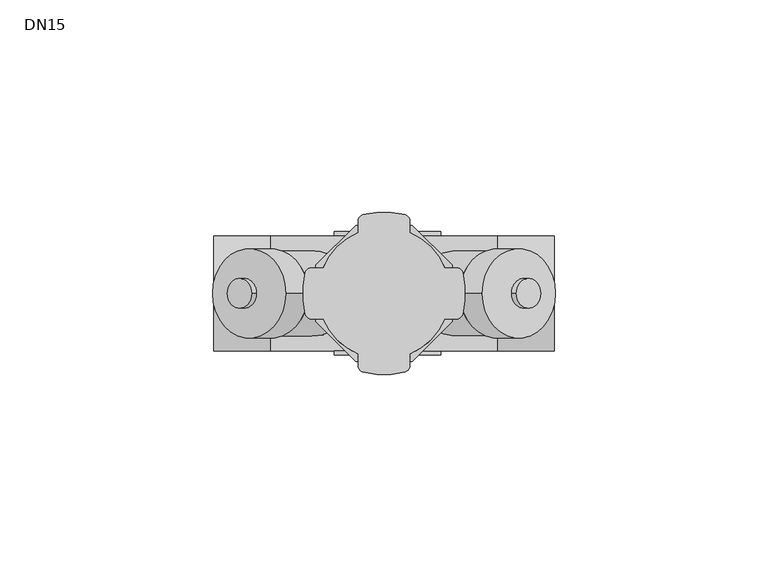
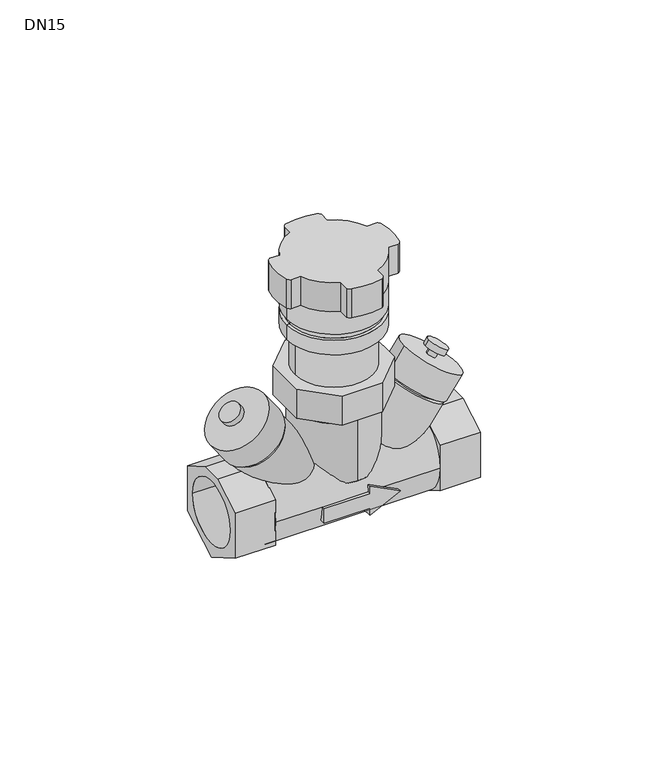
"""IFC4 building model written with IfcOpenShell, lengths in millimetres: valve geometry, 400_56_KOMF_VTZ : DN15."""

from ifc_helpers import new_model, si_unit, point, frame, frame_2d, origin, place, context, project, spatial, polyline, circle_curve, ellipse_curve, trimmed, segment, composite_curve, outline, extrude, source, transform, mapped, element, save
from ifc_brep_helpers import plane_surface, cylinder_surface, revolved_surface, advanced_brep


def dn15_c82197d8(model_context):
    return source(origin(), model_context, "Body", "SolidModel", [
        advanced_brep(
        [(34.1614142, 0.0, 18.2961177), (17.7784319, 0.0, 29.7676054), (19.4167774, 0.0, 28.6204236), (32.5230687, 0.0, 19.4432996), (22.8246716, 0.0, 2.1055715), (6.4416893, 0.0, 13.5770591), (33.0966531, 0.0, 20.2624631), (19.9903618, 0.0, 29.4395871), (40.3067448, 0.0, 26.2008828), (23.1046544, 0.0, 38.2459162), (30.4768006, 0.0, 33.0838838), (32.9345986, 0.0, 31.3629152), (35.1445527, 0.0, 18.8285084), (17.9424623, 0.0, 30.8735418), (34.0817629, 0.0, 33.0012356), (31.623965, 0.0, 34.7222043), (36.867019, 0.0, 33.4924917), (31.132981, 0.0, 37.5075083), (35.719883, 0.0, 31.8542116), (29.985845, 0.0, 35.8692283)],
        [
            (0, 1, circle_curve(frame((25.969923, 0.0, 24.0318616), z_axis=(0.5735764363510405, 0.0, 0.8191520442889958), x_axis=(-0.8191520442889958, 0.0, 0.5735764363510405)), 9.9999642)),
            (1, 0, circle_curve(frame((25.969923, 0.0, 24.0318616), z_axis=(0.5735764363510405, 0.0, 0.8191520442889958), x_axis=(-0.8191520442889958, 0.0, 0.5735764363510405)), 9.9999642)),
            (2, 3, circle_curve(frame((25.969923, 0.0, 24.0318616), z_axis=(-0.5735764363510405, 0.0, -0.8191520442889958), x_axis=(-0.8191520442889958, 0.0, 0.5735764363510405)), 7.9999137)),
            (3, 2, circle_curve(frame((25.969923, 0.0, 24.0318616), z_axis=(-0.5735764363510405, 0.0, -0.8191520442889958), x_axis=(-0.8191520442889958, 0.0, 0.5735764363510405)), 7.9999137)),
            (4, 5, circle_curve(frame((14.6331805, 0.0, 7.8413153), z_axis=(-0.5735764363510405, 0.0, -0.8191520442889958), x_axis=(-0.8191520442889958, 0.0, 0.5735764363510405)), 9.9999642)),
            (5, 4, circle_curve(frame((14.6331805, 0.0, 7.8413153), z_axis=(-0.5735764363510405, 0.0, -0.8191520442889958), x_axis=(-0.8191520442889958, 0.0, 0.5735764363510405)), 9.9999642)),
            (1, 5),
            (4, 0),
            (6, 7, circle_curve(frame((26.5435075, 0.0, 24.8510251), z_axis=(-0.5735764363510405, 0.0, -0.8191520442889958), x_axis=(-0.8191520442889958, 0.0, 0.5735764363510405)), 7.9999137)),
            (7, 2),
            (3, 6),
            (7, 6, circle_curve(frame((26.5435075, 0.0, 24.8510251), z_axis=(-0.5735764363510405, 0.0, -0.8191520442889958), x_axis=(-0.8191520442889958, 0.0, 0.5735764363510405)), 7.9999137)),
            (8, 9, circle_curve(frame((31.7056996, 0.0, 32.2233995), z_axis=(0.5735764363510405, 0.0, 0.8191520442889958), x_axis=(-0.8191520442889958, 0.0, 0.5735764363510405)), 10.4999374)),
            (9, 8, circle_curve(frame((31.7056996, 0.0, 32.2233995), z_axis=(0.5735764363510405, 0.0, 0.8191520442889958), x_axis=(-0.8191520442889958, 0.0, 0.5735764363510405)), 10.4999374)),
            (10, 11, circle_curve(frame((31.7056996, 0.0, 32.2233995), z_axis=(-0.5735764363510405, 0.0, -0.8191520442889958), x_axis=(-0.8191520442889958, 0.0, 0.5735764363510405)), 1.5002086)),
            (11, 10, circle_curve(frame((31.7056996, 0.0, 32.2233995), z_axis=(-0.5735764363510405, 0.0, -0.8191520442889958), x_axis=(-0.8191520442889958, 0.0, 0.5735764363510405)), 1.5002086)),
            (12, 13, circle_curve(frame((26.5435075, 0.0, 24.8510251), z_axis=(-0.5735764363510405, 0.0, -0.8191520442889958), x_axis=(-0.8191520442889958, 0.0, 0.5735764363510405)), 10.4999374)),
            (13, 12, circle_curve(frame((26.5435075, 0.0, 24.8510251), z_axis=(-0.5735764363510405, 0.0, -0.8191520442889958), x_axis=(-0.8191520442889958, 0.0, 0.5735764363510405)), 10.4999374)),
            (9, 13),
            (12, 8),
            (14, 15, circle_curve(frame((32.852864, 0.0, 33.8617199), z_axis=(-0.5735764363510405, 0.0, -0.8191520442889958), x_axis=(-0.8191520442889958, 0.0, 0.5735764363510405)), 1.5002086)),
            (15, 10),
            (11, 14),
            (15, 14, circle_curve(frame((32.852864, 0.0, 33.8617199), z_axis=(-0.5735764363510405, 0.0, -0.8191520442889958), x_axis=(-0.8191520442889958, 0.0, 0.5735764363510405)), 1.5002086)),
            (16, 17, circle_curve(frame((34.0, 0.0, 35.5), z_axis=(0.5735764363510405, 0.0, 0.8191520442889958), x_axis=(-0.8191520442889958, 0.0, 0.5735764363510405)), 3.4999839)),
            (17, 16, circle_curve(frame((34.0, 0.0, 35.5), z_axis=(0.5735764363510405, 0.0, 0.8191520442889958), x_axis=(-0.8191520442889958, 0.0, 0.5735764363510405)), 3.4999839)),
            (18, 19, circle_curve(frame((32.852864, 0.0, 33.8617199), z_axis=(-0.5735764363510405, 0.0, -0.8191520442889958), x_axis=(-0.8191520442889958, 0.0, 0.5735764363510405)), 3.4999839)),
            (19, 18, circle_curve(frame((32.852864, 0.0, 33.8617199), z_axis=(-0.5735764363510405, 0.0, -0.8191520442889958), x_axis=(-0.8191520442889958, 0.0, 0.5735764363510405)), 3.4999839)),
            (17, 19),
            (18, 16),
        ],
        [
            plane_surface(frame((17.7784319, 0.0, 29.7676054), z_axis=(0.5735764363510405, 0.0, 0.8191520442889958), x_axis=(0.0, 1.0, 0.0))),
            plane_surface(frame((6.4416893, 0.0, 13.5770591), z_axis=(-0.5735764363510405, 0.0, -0.8191520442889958), x_axis=(0.0, -1.0, 0.0))),
            cylinder_surface(frame((14.6331805, 0.0, 7.8413153), z_axis=(0.5735764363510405, 0.0, 0.8191520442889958), x_axis=(-0.8191520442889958, 0.0, 0.5735764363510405)), 9.9999642),
            cylinder_surface(frame((17.939734, 0.0, 12.5635631), z_axis=(0.5735764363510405, 0.0, 0.8191520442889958), x_axis=(-0.8191520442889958, 0.0, 0.5735764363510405)), 7.9999137),
            plane_surface(frame((23.1046544, 0.0, 38.2459162), z_axis=(0.5735764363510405, 0.0, 0.8191520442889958), x_axis=(0.0, 1.0, 0.0))),
            plane_surface(frame((17.9424623, 0.0, 30.8735418), z_axis=(-0.5735764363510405, 0.0, -0.8191520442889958), x_axis=(0.0, -1.0, 0.0))),
            cylinder_surface(frame((26.5435075, 0.0, 24.8510251), z_axis=(0.5735764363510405, 0.0, 0.8191520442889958), x_axis=(-0.8191520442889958, 0.0, 0.5735764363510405)), 10.4999374),
            cylinder_surface(frame((31.7056996, 0.0, 32.2233995), z_axis=(0.5735764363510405, 0.0, 0.8191520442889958), x_axis=(-0.8191520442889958, 0.0, 0.5735764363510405)), 1.5002086),
            plane_surface(frame((31.132981, 0.0, 37.5075083), z_axis=(0.5735764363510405, 0.0, 0.8191520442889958), x_axis=(0.0, 1.0, 0.0))),
            plane_surface(frame((29.985845, 0.0, 35.8692283), z_axis=(-0.5735764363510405, 0.0, -0.8191520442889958), x_axis=(0.0, -1.0, 0.0))),
            cylinder_surface(frame((32.852864, 0.0, 33.8617199), z_axis=(0.5735764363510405, 0.0, 0.8191520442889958), x_axis=(-0.8191520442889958, 0.0, 0.5735764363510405)), 3.4999839),
        ],
        [
            (0, [[1, 2], [3, 4]]),
            (1, [[5, 6]]),
            (2, [[7, -5, 8, -2]]),
            (2, [[-8, -6, -7, -1]]),
            (3, [[9, 10, -4, 11]]),
            (3, [[-3, -10, 12, -11]]),
            (4, [[13, 14], [15, 16]]),
            (5, [[17, 18], [-12, -9]]),
            (6, [[19, -17, 20, -14]]),
            (6, [[-20, -18, -19, -13]]),
            (7, [[21, 22, -16, 23]]),
            (7, [[-15, -22, 24, -23]]),
            (8, [[25, 26]]),
            (9, [[27, 28], [-24, -21]]),
            (10, [[29, -27, 30, -26]]),
            (10, [[-30, -28, -29, -25]]),
        ],
    ),
        advanced_brep(
        [(-34.1614142, 0.0, 18.2961177), (-17.7784319, 0.0, 29.7676054), (-19.4167774, 0.0, 28.6204236), (-32.5230687, 0.0, 19.4432996), (-22.8246716, 0.0, 2.1055715), (-6.4416893, 0.0, 13.5770591), (-33.0966531, 0.0, 20.2624631), (-19.9903618, 0.0, 29.4395871), (-40.3067448, 0.0, 26.2008828), (-23.1046544, 0.0, 38.2459162), (-30.4768006, 0.0, 33.0838838), (-32.9345986, 0.0, 31.3629152), (-35.1445527, 0.0, 18.8285084), (-17.9424623, 0.0, 30.8735418), (-34.0817629, 0.0, 33.0012356), (-31.623965, 0.0, 34.7222043), (-36.867019, 0.0, 33.4924917), (-31.132981, 0.0, 37.5075083), (-35.719883, 0.0, 31.8542116), (-29.985845, 0.0, 35.8692283)],
        [
            (0, 1, circle_curve(frame((-25.969923, 0.0, 24.0318616), z_axis=(-0.5735764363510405, 0.0, 0.8191520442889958), x_axis=(0.8191520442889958, 0.0, 0.5735764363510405)), 9.9999642)),
            (1, 0, circle_curve(frame((-25.969923, 0.0, 24.0318616), z_axis=(-0.5735764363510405, 0.0, 0.8191520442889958), x_axis=(0.8191520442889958, 0.0, 0.5735764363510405)), 9.9999642)),
            (2, 3, circle_curve(frame((-25.969923, 0.0, 24.0318616), z_axis=(0.5735764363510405, 0.0, -0.8191520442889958), x_axis=(0.8191520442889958, 0.0, 0.5735764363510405)), 7.9999137)),
            (3, 2, circle_curve(frame((-25.969923, 0.0, 24.0318616), z_axis=(0.5735764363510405, 0.0, -0.8191520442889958), x_axis=(0.8191520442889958, 0.0, 0.5735764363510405)), 7.9999137)),
            (4, 5, circle_curve(frame((-14.6331805, 0.0, 7.8413153), z_axis=(0.5735764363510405, 0.0, -0.8191520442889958), x_axis=(0.8191520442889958, 0.0, 0.5735764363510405)), 9.9999642)),
            (5, 4, circle_curve(frame((-14.6331805, 0.0, 7.8413153), z_axis=(0.5735764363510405, 0.0, -0.8191520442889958), x_axis=(0.8191520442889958, 0.0, 0.5735764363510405)), 9.9999642)),
            (0, 4),
            (5, 1),
            (6, 3),
            (2, 7),
            (7, 6, circle_curve(frame((-26.5435075, 0.0, 24.8510251), z_axis=(0.5735764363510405, 0.0, -0.8191520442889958), x_axis=(0.8191520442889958, 0.0, 0.5735764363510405)), 7.9999137)),
            (6, 7, circle_curve(frame((-26.5435075, 0.0, 24.8510251), z_axis=(0.5735764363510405, 0.0, -0.8191520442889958), x_axis=(0.8191520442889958, 0.0, 0.5735764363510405)), 7.9999137)),
            (8, 9, circle_curve(frame((-31.7056996, 0.0, 32.2233995), z_axis=(-0.5735764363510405, 0.0, 0.8191520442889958), x_axis=(0.8191520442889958, 0.0, 0.5735764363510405)), 10.4999374)),
            (9, 8, circle_curve(frame((-31.7056996, 0.0, 32.2233995), z_axis=(-0.5735764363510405, 0.0, 0.8191520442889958), x_axis=(0.8191520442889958, 0.0, 0.5735764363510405)), 10.4999374)),
            (10, 11, circle_curve(frame((-31.7056996, 0.0, 32.2233995), z_axis=(0.5735764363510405, 0.0, -0.8191520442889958), x_axis=(0.8191520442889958, 0.0, 0.5735764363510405)), 1.5002086)),
            (11, 10, circle_curve(frame((-31.7056996, 0.0, 32.2233995), z_axis=(0.5735764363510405, 0.0, -0.8191520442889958), x_axis=(0.8191520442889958, 0.0, 0.5735764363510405)), 1.5002086)),
            (12, 13, circle_curve(frame((-26.5435075, 0.0, 24.8510251), z_axis=(0.5735764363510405, 0.0, -0.8191520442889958), x_axis=(0.8191520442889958, 0.0, 0.5735764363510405)), 10.4999374)),
            (13, 12, circle_curve(frame((-26.5435075, 0.0, 24.8510251), z_axis=(0.5735764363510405, 0.0, -0.8191520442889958), x_axis=(0.8191520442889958, 0.0, 0.5735764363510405)), 10.4999374)),
            (8, 12),
            (13, 9),
            (14, 11),
            (10, 15),
            (15, 14, circle_curve(frame((-32.852864, 0.0, 33.8617199), z_axis=(0.5735764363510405, 0.0, -0.8191520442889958), x_axis=(0.8191520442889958, 0.0, 0.5735764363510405)), 1.5002086)),
            (14, 15, circle_curve(frame((-32.852864, 0.0, 33.8617199), z_axis=(0.5735764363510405, 0.0, -0.8191520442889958), x_axis=(0.8191520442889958, 0.0, 0.5735764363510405)), 1.5002086)),
            (16, 17, circle_curve(frame((-34.0, 0.0, 35.5), z_axis=(-0.5735764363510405, 0.0, 0.8191520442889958), x_axis=(0.8191520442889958, 0.0, 0.5735764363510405)), 3.4999839)),
            (17, 16, circle_curve(frame((-34.0, 0.0, 35.5), z_axis=(-0.5735764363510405, 0.0, 0.8191520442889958), x_axis=(0.8191520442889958, 0.0, 0.5735764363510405)), 3.4999839)),
            (18, 19, circle_curve(frame((-32.852864, 0.0, 33.8617199), z_axis=(0.5735764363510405, 0.0, -0.8191520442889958), x_axis=(0.8191520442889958, 0.0, 0.5735764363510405)), 3.4999839)),
            (19, 18, circle_curve(frame((-32.852864, 0.0, 33.8617199), z_axis=(0.5735764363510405, 0.0, -0.8191520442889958), x_axis=(0.8191520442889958, 0.0, 0.5735764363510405)), 3.4999839)),
            (16, 18),
            (19, 17),
        ],
        [
            plane_surface(frame((-17.7784319, 0.0, 29.7676054), z_axis=(-0.5735764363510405, 0.0, 0.8191520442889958), x_axis=(0.0, 1.0, 0.0))),
            plane_surface(frame((-6.4416893, 0.0, 13.5770591), z_axis=(0.5735764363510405, 0.0, -0.8191520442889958), x_axis=(0.0, -1.0, 0.0))),
            cylinder_surface(frame((-14.6331805, 0.0, 7.8413153), z_axis=(-0.5735764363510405, 0.0, 0.8191520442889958), x_axis=(0.8191520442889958, 0.0, 0.5735764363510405)), 9.9999642),
            cylinder_surface(frame((-17.939734, 0.0, 12.5635631), z_axis=(-0.5735764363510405, 0.0, 0.8191520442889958), x_axis=(0.8191520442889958, 0.0, 0.5735764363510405)), 7.9999137),
            plane_surface(frame((-23.1046544, 0.0, 38.2459162), z_axis=(-0.5735764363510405, 0.0, 0.8191520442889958), x_axis=(0.0, 1.0, 0.0))),
            plane_surface(frame((-17.9424623, 0.0, 30.8735418), z_axis=(0.5735764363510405, 0.0, -0.8191520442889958), x_axis=(0.0, -1.0, 0.0))),
            cylinder_surface(frame((-26.5435075, 0.0, 24.8510251), z_axis=(-0.5735764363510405, 0.0, 0.8191520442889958), x_axis=(0.8191520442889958, 0.0, 0.5735764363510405)), 10.4999374),
            cylinder_surface(frame((-31.7056996, 0.0, 32.2233995), z_axis=(-0.5735764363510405, 0.0, 0.8191520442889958), x_axis=(0.8191520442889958, 0.0, 0.5735764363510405)), 1.5002086),
            plane_surface(frame((-31.132981, 0.0, 37.5075083), z_axis=(-0.5735764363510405, 0.0, 0.8191520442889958), x_axis=(0.0, 1.0, 0.0))),
            plane_surface(frame((-29.985845, 0.0, 35.8692283), z_axis=(0.5735764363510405, 0.0, -0.8191520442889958), x_axis=(0.0, -1.0, 0.0))),
            cylinder_surface(frame((-32.852864, 0.0, 33.8617199), z_axis=(-0.5735764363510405, 0.0, 0.8191520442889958), x_axis=(0.8191520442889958, 0.0, 0.5735764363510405)), 3.4999839),
        ],
        [
            (0, [[1, 2], [3, 4]]),
            (1, [[5, 6]]),
            (2, [[-1, 7, -6, 8]]),
            (2, [[-2, -8, -5, -7]]),
            (3, [[9, -3, 10, 11]]),
            (3, [[-9, 12, -10, -4]]),
            (4, [[13, 14], [15, 16]]),
            (5, [[17, 18], [-11, -12]]),
            (6, [[-13, 19, -18, 20]]),
            (6, [[-14, -20, -17, -19]]),
            (7, [[21, -15, 22, 23]]),
            (7, [[-21, 24, -22, -16]]),
            (8, [[25, 26]]),
            (9, [[27, 28], [-23, -24]]),
            (10, [[-25, 29, -28, 30]]),
            (10, [[-26, -30, -27, -29]]),
        ],
    ),
        advanced_brep(
        [(26.8, -13.4999998, 2.9999999), (26.8, 13.5000002, 2.9999999), (-26.8, -13.4999998, 2.9999999), (-26.8, 13.5000002, 2.9999999), (8.3504735, -13.4999998, 2.9999999), (13.3504733, -13.266499, 0.5), (3.3504733, -11.224972, -4.5), (3.3504733, -12.539936, -2.0), (-11.6495267, -12.539936, -2.0), (-11.6495267, -13.4999998, 2.9999999), (-11.6495267, 13.5000002, 2.9999999), (-11.6495267, 12.5399365, -2.0), (3.3504733, 12.5399365, -2.0), (3.3504733, 11.2249724, -4.5), (13.3504733, 13.2664994, 0.5), (8.3504735, 13.5000002, 2.9999999), (3.3504733, 13.2664993, 5.5), (3.3504733, 13.5000002, 2.9999999), (3.3504733, -13.4999998, 3.0), (3.3504733, -13.2664989, 5.5), (3.3504733, -14.5, 3.0), (-11.6495267, -14.5, 3.0), (-11.6495267, -14.5, -2.0), (3.3504733, -14.5, -2.0), (3.3504733, -14.5, -4.5), (13.3504733, -14.5, 0.5), (3.3504733, -14.5, 5.5), (3.3504733, 14.5, 3.0), (3.3504733, 14.5, 5.5), (13.3504733, 14.5, 0.5), (3.3504733, 14.5, -4.5), (3.3504733, 14.5, -2.0), (-11.6495267, 14.5, -2.0), (-11.6495267, 14.5, 3.0)],
        [
            (0, 1, circle_curve(frame((26.8, 2e-07, 2.9999999), z_axis=(1.0, 0.0, 0.0), x_axis=(0.0, 1.0, 0.0)), 13.5)),
            (1, 0, circle_curve(frame((26.8, 2e-07, 2.9999999), z_axis=(1.0, 0.0, 0.0), x_axis=(0.0, 1.0, 0.0)), 13.5)),
            (2, 3, circle_curve(frame((-26.8, 2e-07, 2.9999999), z_axis=(-1.0, 0.0, 0.0), x_axis=(0.0, 1.0, 0.0)), 13.5)),
            (3, 2, circle_curve(frame((-26.8, 2e-07, 2.9999999), z_axis=(-1.0, 0.0, 0.0), x_axis=(0.0, 1.0, 0.0)), 13.5)),
            (0, 4),
            (4, 5, ellipse_curve(frame((8.3504735, 2e-07, 2.9999999), z_axis=(0.44721359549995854, 0.0, 0.8944271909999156), x_axis=(0.8944271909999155, 0.0, -0.4472135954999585)), 30.1869177, 13.5)),
            (5, 6, ellipse_curve(frame((18.3504731, 2e-07, 2.9999999), z_axis=(0.4472135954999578, 0.0, -0.894427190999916), x_axis=(0.894427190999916, 0.0, 0.44721359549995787)), 30.1869177, 13.5)),
            (6, 7, circle_curve(frame((3.3504733, 2e-07, 2.9999999), z_axis=(-1.0, 0.0, 0.0), x_axis=(0.0, 1.0, 0.0)), 13.5)),
            (7, 8),
            (8, 9, circle_curve(frame((-11.6495267, 2e-07, 2.9999999), z_axis=(-1.0, 0.0, 0.0), x_axis=(0.0, 1.0, 0.0)), 13.5)),
            (9, 2),
            (3, 10),
            (10, 11, circle_curve(frame((-11.6495267, 2e-07, 2.9999999), z_axis=(-1.0, 0.0, 0.0), x_axis=(0.0, 1.0, 0.0)), 13.5)),
            (11, 12),
            (12, 13, circle_curve(frame((3.3504733, 2e-07, 2.9999999), z_axis=(-1.0, 0.0, 0.0), x_axis=(0.0, 1.0, 0.0)), 13.5)),
            (13, 14, ellipse_curve(frame((18.3504731, 2e-07, 2.9999999), z_axis=(0.4472135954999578, 0.0, -0.894427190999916), x_axis=(0.894427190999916, 0.0, 0.44721359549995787)), 30.1869177, 13.5)),
            (14, 15, ellipse_curve(frame((8.3504735, 2e-07, 2.9999999), z_axis=(0.44721359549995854, 0.0, 0.8944271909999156), x_axis=(0.8944271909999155, 0.0, -0.4472135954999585)), 30.1869177, 13.5)),
            (15, 1),
            (15, 16, ellipse_curve(frame((8.3504735, 2e-07, 2.9999999), z_axis=(0.44721359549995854, 0.0, 0.8944271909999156), x_axis=(0.8944271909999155, 0.0, -0.4472135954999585)), 30.1869177, 13.5)),
            (16, 17, circle_curve(frame((3.3504733, 2e-07, 2.9999999), z_axis=(-1.0, 0.0, 0.0), x_axis=(0.0, 1.0, 0.0)), 13.5)),
            (17, 10),
            (9, 18),
            (18, 19, circle_curve(frame((3.3504733, 2e-07, 2.9999999), z_axis=(-1.0, 0.0, 0.0), x_axis=(0.0, 1.0, 0.0)), 13.5)),
            (19, 4, ellipse_curve(frame((8.3504735, 2e-07, 2.9999999), z_axis=(0.44721359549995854, 0.0, 0.8944271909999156), x_axis=(0.8944271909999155, 0.0, -0.4472135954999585)), 30.1869177, 13.5)),
            (20, 21),
            (21, 22),
            (22, 23),
            (23, 24),
            (24, 25),
            (25, 26),
            (26, 20),
            (27, 28),
            (28, 29),
            (29, 30),
            (30, 31),
            (31, 32),
            (32, 33),
            (33, 27),
            (20, 18),
            (9, 21),
            (33, 10),
            (17, 27),
            (8, 22),
            (32, 11),
            (7, 23),
            (31, 12),
            (6, 24),
            (30, 13),
            (5, 25),
            (29, 14),
            (19, 26),
            (28, 16),
        ],
        [
            plane_surface(frame((26.8, 13.5000002, 2.9999999), z_axis=(1.0, 0.0, 0.0), x_axis=(0.0, 0.0, 1.0))),
            plane_surface(frame((-26.8, 13.5000002, 2.9999999), z_axis=(-1.0, 0.0, 0.0), x_axis=(0.0, 0.0, -1.0))),
            cylinder_surface(frame((-26.8, 2e-07, 2.9999999), z_axis=(1.0, 0.0, 0.0), x_axis=(0.0, 1.0, 0.0)), 13.5),
            plane_surface(frame((-11.6495267, -14.5, 3.0), z_axis=(0.0, -1.0, 0.0), x_axis=(-1.0, 0.0, 0.0))),
            plane_surface(frame((-11.6495267, 14.5, 3.0), z_axis=(0.0, 1.0, 0.0), x_axis=(1.0, 0.0, 0.0))),
            plane_surface(frame((3.3504733, -14.5, 3.0), z_axis=(0.0, 0.0, 1.0), x_axis=(0.0, 1.0, 0.0))),
            plane_surface(frame((-11.6495267, -14.5, 3.0), z_axis=(-1.0, 0.0, 0.0), x_axis=(0.0, 1.0, 0.0))),
            plane_surface(frame((-11.6495267, -14.5, -2.0), z_axis=(0.0, 0.0, -1.0), x_axis=(0.0, 1.0, 0.0))),
            plane_surface(frame((3.3504733, -14.5, -2.0), z_axis=(-1.0, 0.0, 0.0), x_axis=(0.0, 1.0, 0.0))),
            plane_surface(frame((3.3504733, -14.5, -4.5), z_axis=(0.4472135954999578, 0.0, -0.894427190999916), x_axis=(0.0, 1.0, 0.0))),
            plane_surface(frame((13.3504733, -14.5, 0.5), z_axis=(0.44721359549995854, 0.0, 0.8944271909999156), x_axis=(0.0, 1.0, 0.0))),
            plane_surface(frame((3.3504733, -14.5, 5.5), z_axis=(-1.0, 0.0, 0.0), x_axis=(0.0, 1.0, 0.0))),
        ],
        [
            (0, [[1, 2]]),
            (1, [[3, 4]]),
            (2, [[-1, 5, 6, 7, 8, 9, 10, 11, -4, 12, 13, 14, 15, 16, 17, 18]]),
            (2, [[-2, -18, 19, 20, 21, -12, -3, -11, 22, 23, 24, -5]]),
            (3, [[25, 26, 27, 28, 29, 30, 31]]),
            (4, [[32, 33, 34, 35, 36, 37, 38]]),
            (5, [[-25, 39, -22, 40]]),
            (5, [[-38, 41, -21, 42]]),
            (6, [[-26, -40, -10, 43]]),
            (6, [[-37, 44, -13, -41]]),
            (7, [[-27, -43, -9, 45]]),
            (7, [[-36, 46, -14, -44]]),
            (8, [[-28, -45, -8, 47]]),
            (8, [[-35, 48, -15, -46]]),
            (9, [[-29, -47, -7, 49]]),
            (9, [[-34, 50, -16, -48]]),
            (10, [[-30, -49, -6, -24, 51]]),
            (10, [[-33, 52, -19, -17, -50]]),
            (11, [[-31, -51, -23, -39]]),
            (11, [[-32, -42, -20, -52]]),
        ],
    ),
        extrude(outline(polyline([(13.5, 10.7942282), (13.5, -4.7942286), (-4e-07, -12.5884575), (-13.5, -4.7942291), (-13.5, 10.7942286), (-3.6173141, 16.5), (3.6173133, 16.5), (13.5, 10.7942282)]), holes=[composite_curve([segment(trimmed(circle_curve(frame_2d((0.0, 3.0)), 10.65), [point((-10.65, 3.0))], [point((10.65, 3.0))], True, "CARTESIAN"), True, "CONTINUOUS"), segment(trimmed(circle_curve(frame_2d((0.0, 3.0)), 10.65), [point((10.65, 3.0))], [point((-10.65, 3.0))], True, "CARTESIAN"), True, "CONTINUOUS")], self_intersect=False)]), frame((26.8, 0.0, 0.0), z_axis=(1.0, 0.0, 0.0), x_axis=(0.0, 1.0, 0.0)), (0.0, 0.0, 1.0), 13.2),
        extrude(outline(polyline([(13.5, 10.7942282), (13.5, -4.7942286), (-4e-07, -12.5884575), (-13.5, -4.7942291), (-13.5, 10.7942286), (-3.6173141, 16.5), (3.6173133, 16.5), (13.5, 10.7942282)]), holes=[composite_curve([segment(trimmed(circle_curve(frame_2d((0.0, 3.0)), 10.65), [point((-10.65, 3.0))], [point((10.65, 3.0))], True, "CARTESIAN"), True, "CONTINUOUS"), segment(trimmed(circle_curve(frame_2d((0.0, 3.0)), 10.65), [point((10.65, 3.0))], [point((-10.65, 3.0))], True, "CARTESIAN"), True, "CONTINUOUS")], self_intersect=False)]), frame((-40.0, 0.0, 0.0), z_axis=(1.0, 0.0, 0.0), x_axis=(0.0, 1.0, 0.0)), (0.0, 0.0, 1.0), 13.2),
        advanced_brep(
        [(0.0, -13.5, 29.0), (0.0, 13.5, 29.0), (0.0, 13.5, 8.0000003), (0.0, -13.5, 8.0000003), (0.0, -12.0000003, 29.0), (0.0, 12.0000003, 29.0), (0.0, -12.0000003, 37.0), (0.0, 12.0000003, 37.0), (0.0, 0.0, 37.0), (0.0, -10.5000003, 5.0), (0.0, 10.5000003, 5.0), (0.0, 0.0, 5.0)],
        [
            (0, 1, circle_curve(frame((0.0, 0.0, 29.0), z_axis=(0.0, 0.0, -1.0), x_axis=(0.0, 1.0, 0.0)), 13.5)),
            (1, 2),
            (2, 3, circle_curve(frame((0.0, 0.0, 8.0000003), z_axis=(0.0, 0.0, 1.0), x_axis=(0.0, 1.0, 0.0)), 13.5)),
            (3, 0),
            (1, 0, circle_curve(frame((0.0, 0.0, 29.0), z_axis=(0.0, 0.0, -1.0), x_axis=(0.0, 1.0, 0.0)), 13.5)),
            (3, 2, circle_curve(frame((0.0, 0.0, 8.0000003), z_axis=(0.0, 0.0, 1.0), x_axis=(0.0, 1.0, 0.0)), 13.5)),
            (4, 5, circle_curve(frame((0.0, 0.0, 29.0), z_axis=(0.0, 0.0, -1.0), x_axis=(0.0, 1.0, 0.0)), 12.0000003)),
            (5, 1),
            (0, 4),
            (5, 4, circle_curve(frame((0.0, 0.0, 29.0), z_axis=(0.0, 0.0, -1.0), x_axis=(0.0, 1.0, 0.0)), 12.0000003)),
            (6, 7, circle_curve(frame((0.0, 0.0, 37.0), z_axis=(0.0, 0.0, -1.0), x_axis=(0.0, 1.0, 0.0)), 12.0000003)),
            (7, 5),
            (4, 6),
            (7, 6, circle_curve(frame((0.0, 0.0, 37.0), z_axis=(0.0, 0.0, -1.0), x_axis=(0.0, 1.0, 0.0)), 12.0000003)),
            (8, 7),
            (6, 8),
            (9, 10, circle_curve(frame((0.0, 0.0, 5.0), z_axis=(0.0, 0.0, -1.0), x_axis=(0.0, 1.0, 0.0)), 10.5000003)),
            (10, 11),
            (11, 9),
            (10, 9, circle_curve(frame((0.0, 0.0, 5.0), z_axis=(0.0, 0.0, -1.0), x_axis=(0.0, 1.0, 0.0)), 10.5000003)),
            (2, 10),
            (9, 3),
        ],
        [
            cylinder_surface(frame((0.0, 0.0, 1443.3704342), z_axis=(0.0, 0.0, 1.0), x_axis=(0.0, 1.0, 0.0)), 13.5),
            plane_surface(frame((0.0, 0.0, 29.0), z_axis=(0.0, 0.0, 1.0), x_axis=(0.0, 1.0, 0.0))),
            cylinder_surface(frame((0.0, 0.0, 1443.3704342), z_axis=(0.0, 0.0, 1.0), x_axis=(0.0, 1.0, 0.0)), 12.0000003),
            plane_surface(frame((0.0, 0.0, 37.0), z_axis=(0.0, 0.0, 1.0), x_axis=(0.0, 1.0, 0.0))),
            plane_surface(frame((0.0, 0.0, 5.0), z_axis=(0.0, 0.0, -1.0), x_axis=(0.0, 1.0, 0.0))),
            revolved_surface(polyline([(0.0, 10.5000003, 5.0), (0.0, 13.5, 8.0000003)]), (0.0, 0.0, 1443.3704342), (0.0, 0.0, 1.0)),
        ],
        [
            (0, [[1, 2, 3, 4]]),
            (0, [[5, -4, 6, -2]]),
            (1, [[7, 8, -1, 9]]),
            (1, [[10, -9, -5, -8]]),
            (2, [[11, 12, -7, 13]]),
            (2, [[14, -13, -10, -12]]),
            (3, [[15, -11, 16]]),
            (3, [[-16, -14, -15]]),
            (4, [[17, 18, 19]]),
            (4, [[20, -19, -18]]),
            (5, [[-3, 21, -17, 22]]),
            (5, [[-6, -22, -20, -21]]),
        ],
    ),
        extrude(outline(composite_curve([segment(polyline([(-5.999999, 14.2916074), (-5.999999, 17.5000013)]), True, "CONTINUOUS"), segment(trimmed(circle_curve(frame_2d((-4.3362017, 16.836203)), 1.7913262), [point((-5.999999, 17.5000013))], [point((-5.0, 18.5000003))], False, "CARTESIAN"), True, "CONTINUOUS"), segment(trimmed(circle_curve(frame_2d((0.0, -1.7021075)), 20.8116592), [point((-5.0, 18.5000003))], [point((5.0, 18.5000003))], False, "CARTESIAN"), True, "CONTINUOUS"), segment(trimmed(circle_curve(frame_2d((4.177133, 16.6771324)), 1.9999894), [point((5.0, 18.5000003))], [point((6.000001, 17.4999994))], False, "CARTESIAN"), True, "CONTINUOUS"), segment(polyline([(6.000001, 17.4999994), (6.000001, 14.2916074)]), True, "CONTINUOUS"), segment(trimmed(circle_curve(frame_2d((1e-06, 1e-06)), 15.5000005), [point((6.000001, 14.2916074))], [point((14.2916074, 6.000001))], False, "CARTESIAN"), True, "CONTINUOUS"), segment(polyline([(14.2916074, 6.000001), (17.5, 6.000001)]), True, "CONTINUOUS"), segment(trimmed(circle_curve(frame_2d((16.6771331, 4.177133)), 1.9999894), [point((17.5, 6.000001))], [point((18.500001, 5.0))], False, "CARTESIAN"), True, "CONTINUOUS"), segment(trimmed(circle_curve(frame_2d((-1.7021075, 0.0)), 20.8116599), [point((18.500001, 5.0))], [point((18.500001, -5.0))], False, "CARTESIAN"), True, "CONTINUOUS"), segment(trimmed(circle_curve(frame_2d((16.8362037, -4.3362017)), 1.7913262), [point((18.500001, -5.0))], [point((17.500002, -5.999999))], False, "CARTESIAN"), True, "CONTINUOUS"), segment(polyline([(17.500002, -5.999999), (14.2916074, -5.999999)]), True, "CONTINUOUS"), segment(trimmed(circle_curve(frame_2d((1e-06, 1e-06)), 15.5000005), [point((14.2916074, -5.999999))], [point((6.000001, -14.2916054))], False, "CARTESIAN"), True, "CONTINUOUS"), segment(polyline([(6.000001, -14.2916054), (6.000001, -17.4999974)]), True, "CONTINUOUS"), segment(trimmed(circle_curve(frame_2d((4.177133, -16.6771304)), 1.9999894), [point((6.000001, -17.4999974))], [point((5.0, -18.4999984))], False, "CARTESIAN"), True, "CONTINUOUS"), segment(trimmed(circle_curve(frame_2d((0.0, 1.7021094)), 20.8116592), [point((5.0, -18.4999984))], [point((-5.0, -18.4999984))], False, "CARTESIAN"), True, "CONTINUOUS"), segment(trimmed(circle_curve(frame_2d((-4.3362017, -16.8362011)), 1.7913262), [point((-5.0, -18.4999984))], [point((-5.999999, -17.4999994))], False, "CARTESIAN"), True, "CONTINUOUS"), segment(polyline([(-5.999999, -17.4999994), (-5.999999, -14.2916054)]), True, "CONTINUOUS"), segment(trimmed(circle_curve(frame_2d((1e-06, 1e-06)), 15.5000005), [point((-5.999999, -14.2916054))], [point((-14.2916054, -5.999999))], False, "CARTESIAN"), True, "CONTINUOUS"), segment(polyline([(-14.2916054, -5.999999), (-17.5, -5.999999)]), True, "CONTINUOUS"), segment(trimmed(circle_curve(frame_2d((-16.8362017, -4.3362017)), 1.7913262), [point((-17.5, -5.999999))], [point((-18.499999, -5.0))], False, "CARTESIAN"), True, "CONTINUOUS"), segment(trimmed(circle_curve(frame_2d((1.7021094, 0.0)), 20.8116599), [point((-18.499999, -5.0))], [point((-18.499999, 5.0))], False, "CARTESIAN"), True, "CONTINUOUS"), segment(trimmed(circle_curve(frame_2d((-16.6771311, 4.177133)), 1.9999894), [point((-18.499999, 5.0))], [point((-17.4999981, 6.000001))], False, "CARTESIAN"), True, "CONTINUOUS"), segment(polyline([(-17.4999981, 6.000001), (-14.2916054, 6.000001)]), True, "CONTINUOUS"), segment(trimmed(circle_curve(frame_2d((1e-06, 1e-06)), 15.5000005), [point((-14.2916054, 6.000001))], [point((-5.999999, 14.2916074))], False, "CARTESIAN"), True, "CONTINUOUS")], self_intersect=False)), frame((0.0, 0.0, 68.9999993), z_axis=(0.0, 0.0, 1.0), x_axis=(1.0, 0.0, 0.0)), (0.0, 0.0, 1.0), 10.0000028),
        advanced_brep(
        [(15.5000005, 0.0, 61.1249976), (-15.5000005, 0.0, 61.1249976), (-15.5000005, 0.0, 68.9999993), (15.5000005, 0.0, 68.9999993), (14.4686689, 0.0, 61.1249976), (-14.4686689, 0.0, 61.1249976), (14.4686689, 0.0, 59.1250016), (-14.4686689, 0.0, 59.1250016), (15.5000005, 0.0, 59.1250016), (-15.5000005, 0.0, 59.1250016), (15.5000005, 0.0, 54.1401), (-15.5000005, 0.0, 54.1401), (12.7500002, 0.0, 54.1401), (-12.7500002, 0.0, 54.1401), (12.7500002, 0.0, 41.0000005), (-12.7500002, 0.0, 41.0000005), (0.0, 0.0, 41.0000005), (0.0, 0.0, 68.9999993)],
        [
            (0, 1, circle_curve(frame((0.0, 0.0, 61.1249976), z_axis=(0.0, 0.0, 1.0), x_axis=(-1.0, 0.0, 0.0)), 15.5000005)),
            (1, 2),
            (2, 3, circle_curve(frame((0.0, 0.0, 68.9999993), z_axis=(0.0, 0.0, -1.0), x_axis=(-1.0, 0.0, 0.0)), 15.5000005)),
            (3, 0),
            (1, 0, circle_curve(frame((0.0, 0.0, 61.1249976), z_axis=(0.0, 0.0, 1.0), x_axis=(-1.0, 0.0, 0.0)), 15.5000005)),
            (3, 2, circle_curve(frame((0.0, 0.0, 68.9999993), z_axis=(0.0, 0.0, -1.0), x_axis=(-1.0, 0.0, 0.0)), 15.5000005)),
            (4, 5, circle_curve(frame((0.0, 0.0, 61.1249976), z_axis=(0.0, 0.0, 1.0), x_axis=(-1.0, 0.0, 0.0)), 14.4686689)),
            (5, 1),
            (0, 4),
            (5, 4, circle_curve(frame((0.0, 0.0, 61.1249976), z_axis=(0.0, 0.0, 1.0), x_axis=(-1.0, 0.0, 0.0)), 14.4686689)),
            (6, 7, circle_curve(frame((0.0, 0.0, 59.1250016), z_axis=(0.0, 0.0, 1.0), x_axis=(-1.0, 0.0, 0.0)), 14.4686689)),
            (7, 5),
            (4, 6),
            (7, 6, circle_curve(frame((0.0, 0.0, 59.1250016), z_axis=(0.0, 0.0, 1.0), x_axis=(-1.0, 0.0, 0.0)), 14.4686689)),
            (8, 9, circle_curve(frame((0.0, 0.0, 59.1250016), z_axis=(0.0, 0.0, 1.0), x_axis=(-1.0, 0.0, 0.0)), 15.5000005)),
            (9, 7),
            (6, 8),
            (9, 8, circle_curve(frame((0.0, 0.0, 59.1250016), z_axis=(0.0, 0.0, 1.0), x_axis=(-1.0, 0.0, 0.0)), 15.5000005)),
            (10, 11, circle_curve(frame((0.0, 0.0, 54.1401), z_axis=(0.0, 0.0, 1.0), x_axis=(-1.0, 0.0, 0.0)), 15.5000005)),
            (11, 9),
            (8, 10),
            (11, 10, circle_curve(frame((0.0, 0.0, 54.1401), z_axis=(0.0, 0.0, 1.0), x_axis=(-1.0, 0.0, 0.0)), 15.5000005)),
            (12, 13, circle_curve(frame((0.0, 0.0, 54.1401), z_axis=(0.0, 0.0, 1.0), x_axis=(-1.0, 0.0, 0.0)), 12.7500002)),
            (13, 11),
            (10, 12),
            (13, 12, circle_curve(frame((0.0, 0.0, 54.1401), z_axis=(0.0, 0.0, 1.0), x_axis=(-1.0, 0.0, 0.0)), 12.7500002)),
            (14, 15, circle_curve(frame((0.0, 0.0, 41.0000005), z_axis=(0.0, 0.0, 1.0), x_axis=(-1.0, 0.0, 0.0)), 12.7500002)),
            (15, 13),
            (12, 14),
            (15, 14, circle_curve(frame((0.0, 0.0, 41.0000005), z_axis=(0.0, 0.0, 1.0), x_axis=(-1.0, 0.0, 0.0)), 12.7500002)),
            (16, 15),
            (14, 16),
            (2, 17),
            (17, 3),
        ],
        [
            cylinder_surface(frame((0.0, 0.0, 39.1250005), z_axis=(0.0, 0.0, -1.0), x_axis=(-1.0, 0.0, 0.0)), 15.5000005),
            plane_surface(frame((0.0, 0.0, 61.1249976), z_axis=(0.0, 0.0, -1.0), x_axis=(-1.0, 0.0, 0.0))),
            cylinder_surface(frame((0.0, 0.0, 39.1250005), z_axis=(0.0, 0.0, -1.0), x_axis=(-1.0, 0.0, 0.0)), 14.4686689),
            plane_surface(frame((0.0, 0.0, 59.1250016), z_axis=(0.0, 0.0, 1.0), x_axis=(-1.0, 0.0, 0.0))),
            plane_surface(frame((0.0, 0.0, 54.1401), z_axis=(0.0, 0.0, -1.0), x_axis=(-1.0, 0.0, 0.0))),
            cylinder_surface(frame((0.0, 0.0, 39.1250005), z_axis=(0.0, 0.0, -1.0), x_axis=(-1.0, 0.0, 0.0)), 12.7500002),
            plane_surface(frame((0.0, 0.0, 41.0000005), z_axis=(0.0, 0.0, -1.0), x_axis=(-1.0, 0.0, 0.0))),
            plane_surface(frame((0.0, 0.0, 68.9999993), z_axis=(0.0, 0.0, 1.0), x_axis=(-1.0, 0.0, 0.0))),
        ],
        [
            (0, [[1, 2, 3, 4]]),
            (0, [[5, -4, 6, -2]]),
            (1, [[7, 8, -1, 9]]),
            (1, [[10, -9, -5, -8]]),
            (2, [[11, 12, -7, 13]]),
            (2, [[14, -13, -10, -12]]),
            (3, [[15, 16, -11, 17]]),
            (3, [[18, -17, -14, -16]]),
            (0, [[19, 20, -15, 21]]),
            (0, [[22, -21, -18, -20]]),
            (4, [[23, 24, -19, 25]]),
            (4, [[26, -25, -22, -24]]),
            (5, [[27, 28, -23, 29]]),
            (5, [[30, -29, -26, -28]]),
            (6, [[31, -27, 32]]),
            (6, [[-32, -30, -31]]),
            (7, [[-3, 33, 34]]),
            (7, [[-6, -34, -33]]),
        ],
    ),
        extrude(outline(polyline([(16.0000006, 6.6274173), (16.0000006, -6.6274173), (6.6274173, -15.9999999), (-6.6274173, -15.9999999), (-16.0000006, -6.6274173), (-16.0000006, 6.6274173), (-6.6274173, 15.9999999), (6.6274173, 15.9999999), (16.0000006, 6.6274173)])), frame((0.0, 0.0, 31.0), z_axis=(0.0, 0.0, 1.0), x_axis=(1.0, 0.0, 0.0)), (0.0, 0.0, 1.0), 10.0000005),
    ])


if __name__ == "__main__":
    model = new_model("IFC4")
    model_context = context("Model", 3, world=origin())
    ifc_project = project(units=[si_unit("LENGTHUNIT", "METRE", prefix="MILLI")], contexts=[model_context])
    site = spatial("IfcSite", under=ifc_project)
    building = spatial("IfcBuilding", under=site)
    placement = place(None, origin())
    dn15_shape = dn15_c82197d8(model_context)
    element("IfcValve", 1, ObjectType="400_56_KOMF_VTZ : DN15", at=placement, inside=building, context=model_context, shape_type="MappedRepresentation", body=[
        mapped(dn15_shape, transform((0.0, 0.0, 0.0), x_axis=(1.0, 0.0, 0.0), y_axis=(0.0, 1.0, 0.0), z_axis=(0.0, 0.0, 1.0))),
    ])
    save(model, "model.ifc")
